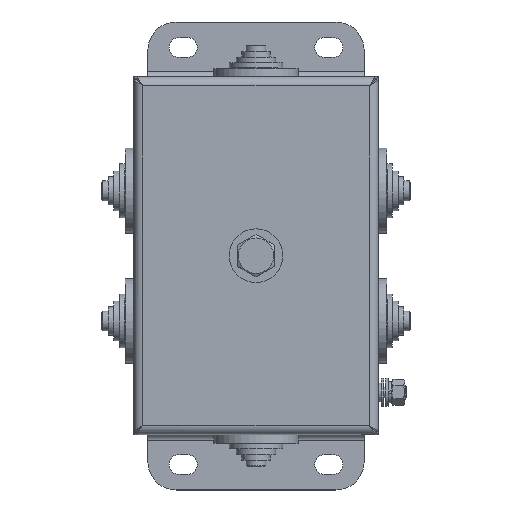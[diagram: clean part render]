
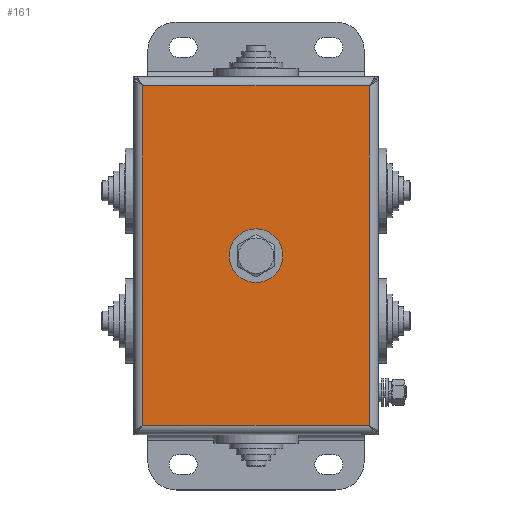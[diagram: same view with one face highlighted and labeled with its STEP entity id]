
A CAD part, top view. The second image highlights one B-rep face of the part: STEP entity #161.
In plain terms, the highlighted planar face has unit normal (0, 0, 1).
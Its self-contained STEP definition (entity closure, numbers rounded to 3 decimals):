
#161=ADVANCED_FACE('',(#11342,#11344),#11346,.T.);
#11342=FACE_BOUND('',#11343,.T.);
#11343=EDGE_LOOP('',(#20662,#20663,#20664,#20665));
#11344=FACE_BOUND('',#11345,.T.);
#11345=EDGE_LOOP('',(#20666));
#11346=PLANE('',#11347);
#11347=AXIS2_PLACEMENT_3D('',#11348,#11349,#11350);
#11348=CARTESIAN_POINT('',(0.,0.,61.7));
#11349=DIRECTION('',(0.,-0.,1.));
#11350=DIRECTION('',(0.,1.,0.));
#20662=ORIENTED_EDGE('',*,*,#28149,.T.);
#20663=ORIENTED_EDGE('',*,*,#28150,.T.);
#20664=ORIENTED_EDGE('',*,*,#28151,.T.);
#20665=ORIENTED_EDGE('',*,*,#28152,.T.);
#20666=ORIENTED_EDGE('',*,*,#28096,.T.);
#28096=EDGE_CURVE('',#31248,#31248,#31249,.F.);
#28149=EDGE_CURVE('',#31350,#31351,#31352,.T.);
#28150=EDGE_CURVE('',#31351,#31353,#31354,.T.);
#28151=EDGE_CURVE('',#31353,#31355,#31356,.T.);
#28152=EDGE_CURVE('',#31355,#31350,#31357,.T.);
#31248=VERTEX_POINT('',#36509);
#31249=CIRCLE('',#36510,8.5);
#31350=VERTEX_POINT('',#36741);
#31351=VERTEX_POINT('',#36742);
#31352=LINE('',#36743,#36744);
#31353=VERTEX_POINT('',#36746);
#31354=LINE('',#36747,#36748);
#31355=VERTEX_POINT('',#36750);
#31356=LINE('',#36751,#36752);
#31357=LINE('',#36754,#36755);
#36509=CARTESIAN_POINT('',(-8.5,0.,61.7));
#36510=AXIS2_PLACEMENT_3D('',#36511,#36512,#36513);
#36511=CARTESIAN_POINT('',(0.,0.,61.7));
#36512=DIRECTION('',(0.,-0.,1.));
#36513=DIRECTION('',(-1.,0.,0.));
#36741=CARTESIAN_POINT('',(40.05,60.05,61.7));
#36742=CARTESIAN_POINT('',(-40.05,60.05,61.7));
#36743=CARTESIAN_POINT('',(40.05,60.05,61.7));
#36744=VECTOR('',#36745,1.);
#36745=DIRECTION('',(-1.,0.,0.));
#36746=CARTESIAN_POINT('',(-40.05,-60.05,61.7));
#36747=CARTESIAN_POINT('',(-40.05,60.05,61.7));
#36748=VECTOR('',#36749,1.);
#36749=DIRECTION('',(0.,-1.,0.));
#36750=CARTESIAN_POINT('',(40.05,-60.05,61.7));
#36751=CARTESIAN_POINT('',(-40.05,-60.05,61.7));
#36752=VECTOR('',#36753,1.);
#36753=DIRECTION('',(1.,0.,0.));
#36754=CARTESIAN_POINT('',(40.05,-60.05,61.7));
#36755=VECTOR('',#36756,1.);
#36756=DIRECTION('',(0.,1.,0.));
